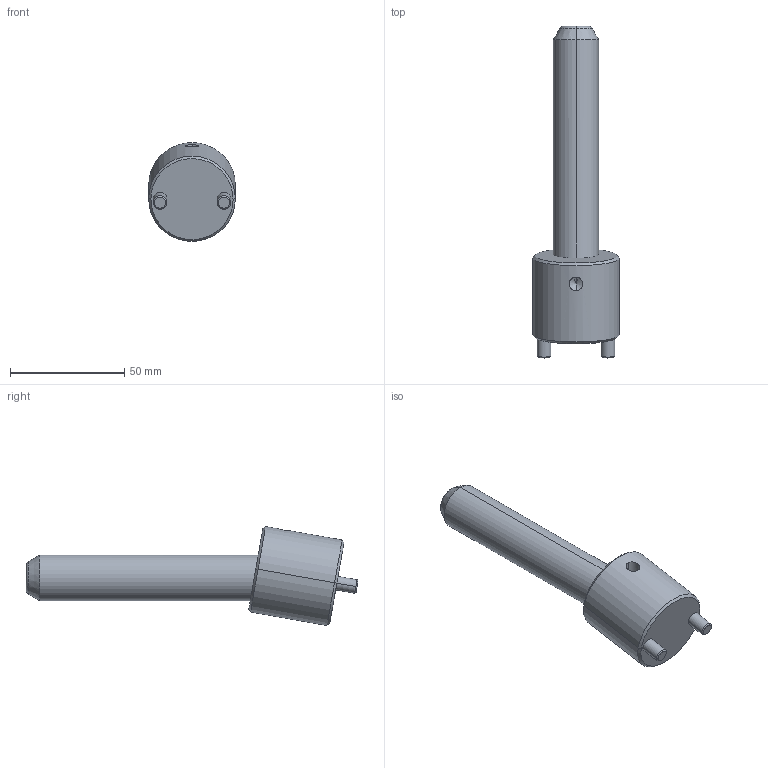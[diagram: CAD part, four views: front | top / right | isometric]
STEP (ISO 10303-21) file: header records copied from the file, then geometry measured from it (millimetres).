
FILE_DESCRIPTION(('CATIA V5 STEP Exchange'),'2;1');
FILE_NAME('C:\Users\Raffaele\Desktop\3D BOLEX\3D FILES CF BOLEX\19-INCLINED ASSEMBLY REF_CI\CI1020100.stp','2019-06-21T13:54:47+00:00',('none'),('none'),'CATIA Version 5 Release 20 GA (IN-10)','CATIA V5 STEP AP203','none');
FILE_SCHEMA(('CONFIG_CONTROL_DESIGN'));
Length unit declared in the file: millimetre
Products named in the file (1): CI1020100
Assembly tree (2 placements, depth 2):
  CI1020100
    #58
    #572
Bounding box: 38 x 145.45 x 43.33 mm (x, y, z)
Volume: 71510.1 mm3; surface area: 17454.2 mm2
Topology: 2 solids, 2 shells, 39 faces, 82 edges, 47 vertices
Faces by surface type: cone 14, cylinder 14, plane 7, torus 4
Entity records: 1494 total; most frequent: CARTESIAN_POINT 635, ORIENTED_EDGE 160, DIRECTION 145, EDGE_CURVE 80, AXIS2_PLACEMENT_3D 72, VERTEX_POINT 47, EDGE_LOOP 43, ADVANCED_FACE 39
